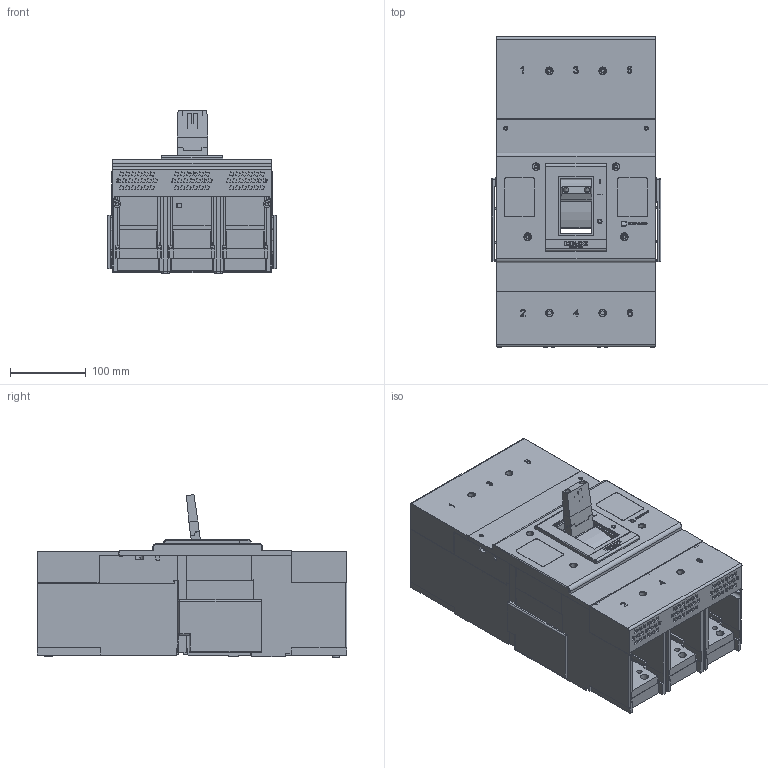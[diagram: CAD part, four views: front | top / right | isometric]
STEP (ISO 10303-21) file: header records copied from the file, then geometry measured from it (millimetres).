
FILE_DESCRIPTION((''),'2;1');
FILE_NAME('CDM6H-1600-1250A_2000_ASM','2025-01-10T17:00:24',('Administrator'),(''),'CREO PARAMETRIC BY PTC INC, 2021404','CREO PARAMETRIC BY PTC INC, 2021404','');
FILE_SCHEMA(('CONFIG_CONTROL_DESIGN'));
Products named in the file (24): CDM6H-1600-1250A_20003; CDM6H-1600-1250A_20004; CDM6H-1600-1250A_20005; CDM6H-1600-1250A_20006; CDM6H-1600-1250A_20007; CDM6H-1600-1250A_20008; CDM6H-1600-1250A_20009; CDM6H-1600-1250A_20010; CDM6H-1600-1250A_20011; CDM6H-1600-1250A_20012; CDM6H-1600-1250A_20013; CDM6H-1600-1250A_20014; CDM6H-1600-1250A_20015; CDM6H-1600-1250A_20016; CDM6H-1600-1250A_20017; CDM6H-1600-1250A_20018; CDM6H-1600-1250A_20019; CDM6H-1600-1250A_20020; CDM6H-1600-1250A_20021; CDM6H-1600-1250A_20022; CDM6H-1600-1250A_20023; CDM6H-1600-1250A_20024; CDM6H-1600-1250A_20002_ASM; CDM6H-1600-1250A_2000_ASM
Assembly tree (23 placements, depth 3):
  CDM6H-1600-1250A_2000_ASM
    CDM6H-1600-1250A_20002_ASM
      CDM6H-1600-1250A_20003
      CDM6H-1600-1250A_20004
      CDM6H-1600-1250A_20005
      CDM6H-1600-1250A_20006
      CDM6H-1600-1250A_20007
      CDM6H-1600-1250A_20008
      CDM6H-1600-1250A_20009
      CDM6H-1600-1250A_20010
      CDM6H-1600-1250A_20011
      CDM6H-1600-1250A_20012
      CDM6H-1600-1250A_20013
      CDM6H-1600-1250A_20014
      CDM6H-1600-1250A_20015
      CDM6H-1600-1250A_20016
      CDM6H-1600-1250A_20017
      CDM6H-1600-1250A_20018
      CDM6H-1600-1250A_20019
      CDM6H-1600-1250A_20020
      CDM6H-1600-1250A_20021
      CDM6H-1600-1250A_20022
      CDM6H-1600-1250A_20023
      CDM6H-1600-1250A_20024
Bounding box: 223 x 408 x 214 mm (x, y, z)
Volume: 3733768.2 mm3; surface area: 1562993.1 mm2
Topology: 22 solids, 22 shells, 6518 faces, 18962 edges, 12684 vertices
Faces by surface type: plane 4862, cylinder 1313, torus 161, cone 101, extrusion 51, sphere 23, bspline 7
Entity records: 219784 total; most frequent: CARTESIAN_POINT 42803, ORIENTED_EDGE 37854, DIRECTION 35411, EDGE_CURVE 18927, VECTOR 14901, LINE 14850, VERTEX_POINT 12684, AXIS2_PLACEMENT_3D 10255
